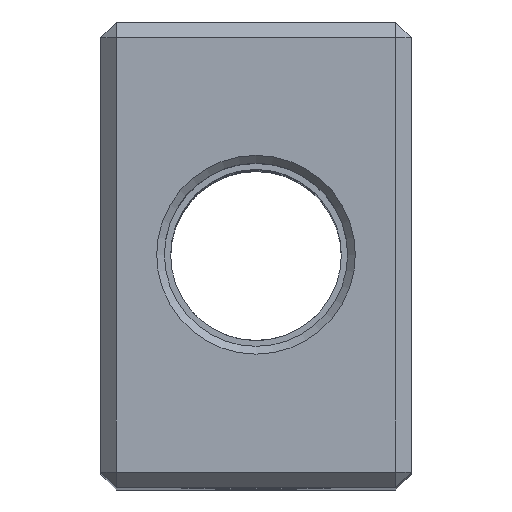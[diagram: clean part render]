
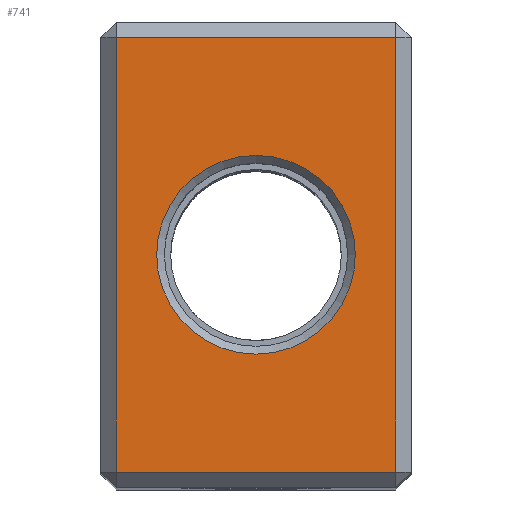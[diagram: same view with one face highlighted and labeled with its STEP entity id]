
A CAD part, top view. The second image highlights one B-rep face of the part: STEP entity #741.
In plain terms, the highlighted planar face has unit normal (0, 0, 1).
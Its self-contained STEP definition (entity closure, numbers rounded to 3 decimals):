
#36=FACE_BOUND('',#143,.T.);
#54=PLANE('',#824);
#91=FACE_OUTER_BOUND('',#142,.T.);
#142=EDGE_LOOP('',(#569,#570,#571,#572));
#143=EDGE_LOOP('',(#573));
#211=LINE('',#1292,#278);
#212=LINE('',#1294,#279);
#213=LINE('',#1296,#280);
#214=LINE('',#1297,#281);
#278=VECTOR('',#945,10.);
#279=VECTOR('',#946,10.);
#280=VECTOR('',#947,10.);
#281=VECTOR('',#948,10.);
#338=CIRCLE('',#821,6.4);
#378=VERTEX_POINT('',#1282);
#381=VERTEX_POINT('',#1290);
#382=VERTEX_POINT('',#1291);
#383=VERTEX_POINT('',#1293);
#384=VERTEX_POINT('',#1295);
#445=EDGE_CURVE('',#378,#378,#338,.T.);
#449=EDGE_CURVE('',#381,#382,#211,.T.);
#450=EDGE_CURVE('',#383,#381,#212,.T.);
#451=EDGE_CURVE('',#384,#383,#213,.T.);
#452=EDGE_CURVE('',#382,#384,#214,.T.);
#569=ORIENTED_EDGE('',*,*,#449,.F.);
#570=ORIENTED_EDGE('',*,*,#450,.F.);
#571=ORIENTED_EDGE('',*,*,#451,.F.);
#572=ORIENTED_EDGE('',*,*,#452,.F.);
#573=ORIENTED_EDGE('',*,*,#445,.F.);
#741=ADVANCED_FACE('',(#91,#36),#54,.T.);
#821=AXIS2_PLACEMENT_3D('',#1283,#936,#937);
#824=AXIS2_PLACEMENT_3D('',#1289,#943,#944);
#936=DIRECTION('center_axis',(0.,0.,1.));
#937=DIRECTION('ref_axis',(-1.,0.,0.));
#943=DIRECTION('center_axis',(0.,0.,1.));
#944=DIRECTION('ref_axis',(1.,0.,0.));
#945=DIRECTION('',(1.,0.,0.));
#946=DIRECTION('',(0.,1.,0.));
#947=DIRECTION('',(-1.,0.,0.));
#948=DIRECTION('',(0.,-1.,0.));
#1282=CARTESIAN_POINT('',(6.4,0.,45.));
#1283=CARTESIAN_POINT('Origin',(0.,0.,45.));
#1289=CARTESIAN_POINT('Origin',(0.,0.,45.));
#1290=CARTESIAN_POINT('',(-9.,14.,45.));
#1291=CARTESIAN_POINT('',(9.,14.,45.));
#1292=CARTESIAN_POINT('',(5.,14.,45.));
#1293=CARTESIAN_POINT('',(-9.,-14.,45.));
#1294=CARTESIAN_POINT('',(-9.,7.5,45.));
#1295=CARTESIAN_POINT('',(9.,-14.,45.));
#1296=CARTESIAN_POINT('',(-5.,-14.,45.));
#1297=CARTESIAN_POINT('',(9.,-7.5,45.));
